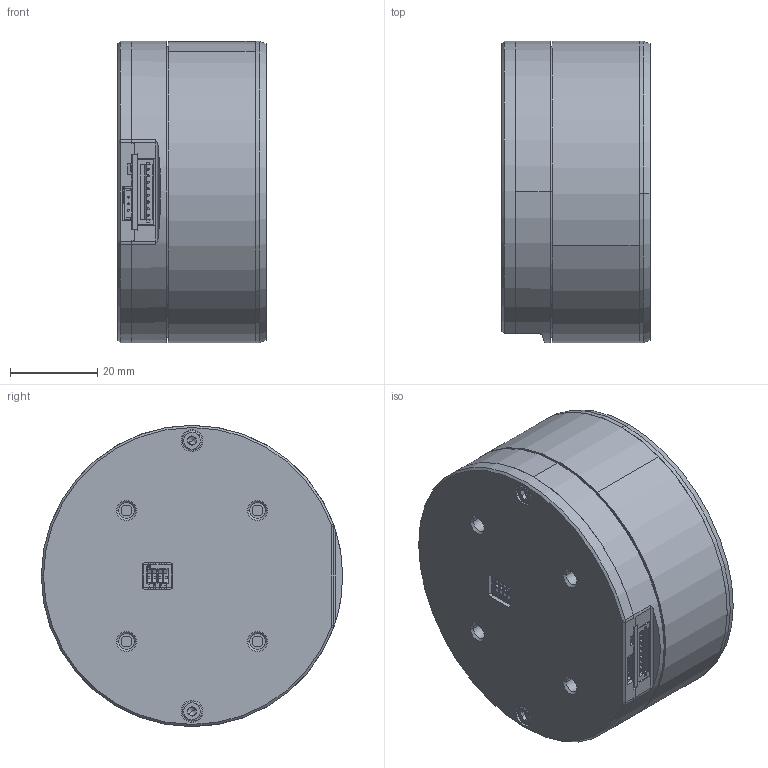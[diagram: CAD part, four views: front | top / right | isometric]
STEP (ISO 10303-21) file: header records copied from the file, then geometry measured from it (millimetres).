
FILE_DESCRIPTION (( 'STEP AP214' ), '1' );
FILE_NAME ('MS7015v2.STEP', '2022-02-21T16:00:33', ( '' ), ( '' ), 'SwSTEP 2.0', 'SolidWorks 2018', '' );
FILE_SCHEMA (( 'AUTOMOTIVE_DESIGN' ));
Length unit declared in the file: millimetre
Products named in the file (2): MS7015v2
Bounding box: 33.9 x 69 x 69 mm (x, y, z)
Surface area: 42243.8 mm2 (no closed solid volume)
Topology: 0 solids, 62 shells, 1308 faces, 3275 edges, 2120 vertices
Faces by surface type: plane 697, cylinder 433, bspline 148, cone 30
Entity records: 58586 total; most frequent: CARTESIAN_POINT 12636, ORIENTED_EDGE 6486, DIRECTION 6194, EDGE_CURVE 3247, VERTEX_POINT 2120, AXIS2_PLACEMENT_3D 2078, LINE 2038, VECTOR 2038
